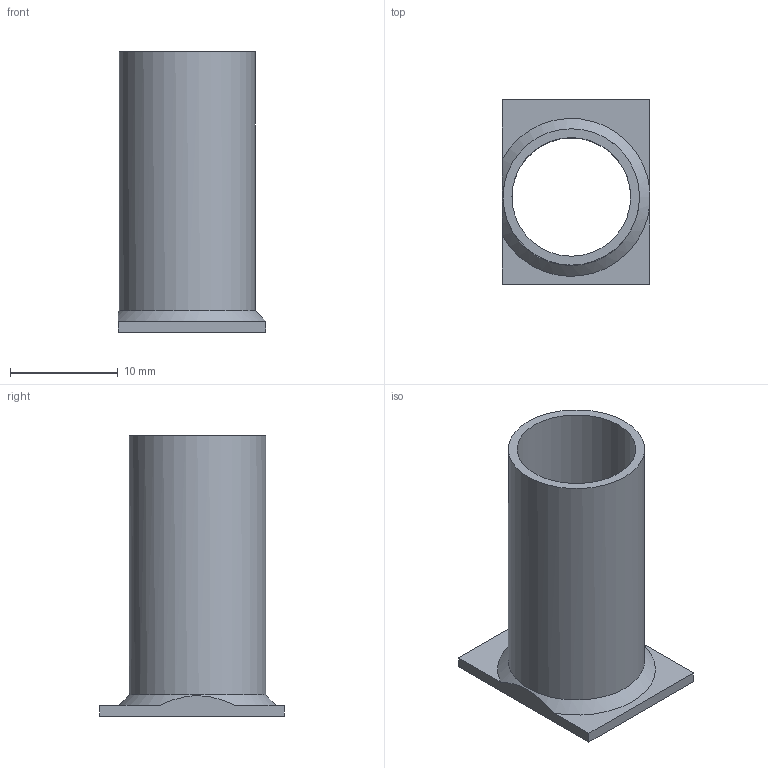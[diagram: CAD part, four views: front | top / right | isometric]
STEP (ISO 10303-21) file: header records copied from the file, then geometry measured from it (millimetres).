
FILE_DESCRIPTION(/* description */ ('STEP AP242','CAx-IF Rec.Pracs.---Representation and Presentation of Product Manufacturing Information (PMI)---4.0---2014-10-13','CAx-IF Rec.Pracs.---3D Tessellated Geometry---0.4---2014-09-14','2;1'),/* implementation_level */ '2;1');
FILE_NAME(/* name */ '6662e31809ba451e202757fb',/* time_stamp */ '2024-06-07T10:38:17Z',/* author */ (''),/* organization */ (''),/* preprocessor_version */ 'ST-DEVELOPER v20',/* originating_system */ ' ',/* authorisation */ ' ');
FILE_SCHEMA (('AP242_MANAGED_MODEL_BASED_3D_ENGINEERING_MIM_LF { 1 0 10303 442 1 1 4 }'));
Length unit declared in the file: metre
Products named in the file (1): Part 1
Bounding box: 13.7 x 17.1 x 26 mm (x, y, z)
Volume: 919.8 mm3; surface area: 2211.8 mm2
Topology: 1 solids, 1 shells, 11 faces, 26 edges, 17 vertices
Faces by surface type: plane 8, cylinder 2, cone 1
Full cylindrical faces by diameter (mm): 11 x1, 12.64 x1
Entity records: 324 total; most frequent: CARTESIAN_POINT 58, DIRECTION 50, ORIENTED_EDGE 44, EDGE_CURVE 22, AXIS2_PLACEMENT_3D 18, VERTEX_POINT 16, EDGE_LOOP 16, FACE_BOUND 16
